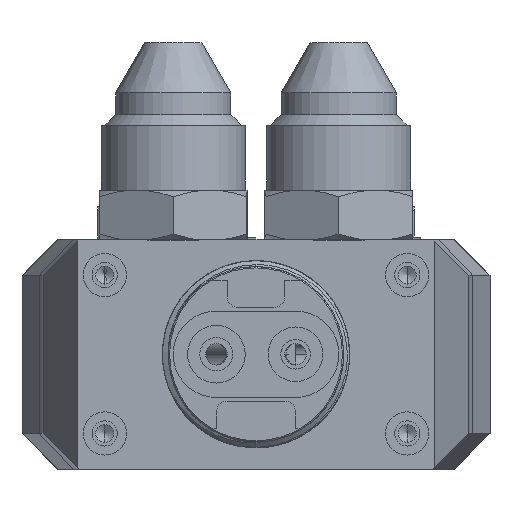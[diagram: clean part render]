
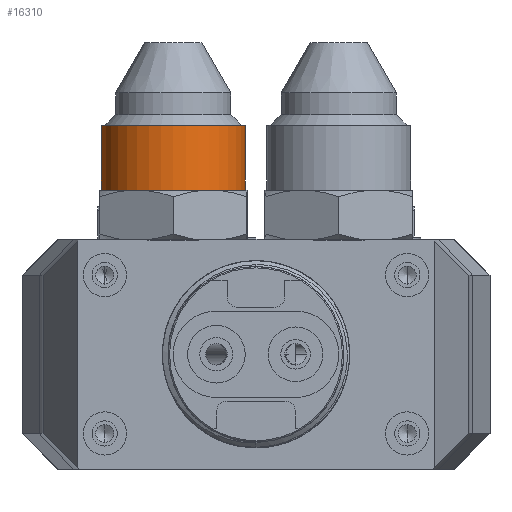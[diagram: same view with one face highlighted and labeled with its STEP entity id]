
A CAD part, front view. The second image highlights one B-rep face of the part: STEP entity #16310.
In plain terms, the highlighted cylindrical face has radius 10 mm (diameter 20 mm), a partial arc.
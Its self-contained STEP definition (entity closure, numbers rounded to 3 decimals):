
#1194 = CARTESIAN_POINT ( 'NONE',  ( -128.341, -150.379, 49.306 ) ) ;
#1388 = VERTEX_POINT ( 'NONE', #23137 ) ;
#1968 = VERTEX_POINT ( 'NONE', #52903 ) ;
#4090 = AXIS2_PLACEMENT_3D ( 'NONE', #40790, #52809, #11006 ) ;
#7094 = DIRECTION ( 'NONE',  ( 1., 0., 0. ) ) ;
#11006 = DIRECTION ( 'NONE',  ( 1., 0., 0. ) ) ;
#12811 = CARTESIAN_POINT ( 'NONE',  ( -148.341, -150.379, 71.578 ) ) ;
#13624 = AXIS2_PLACEMENT_3D ( 'NONE', #54918, #32314, #7094 ) ;
#13909 = CARTESIAN_POINT ( 'NONE',  ( -128.341, -150.379, 71.578 ) ) ;
#14523 = CARTESIAN_POINT ( 'NONE',  ( -138.341, -150.379, 40.306 ) ) ;
#16310 = ADVANCED_FACE ( 'NONE', ( #31349 ), #49968, .T. ) ;
#19428 = CIRCLE ( 'NONE', #13624, 10. ) ;
#22778 = ORIENTED_EDGE ( 'NONE', *, *, #36823, .T. ) ;
#23051 = LINE ( 'NONE', #13909, #56966 ) ;
#23137 = CARTESIAN_POINT ( 'NONE',  ( -128.341, -150.379, 40.306 ) ) ;
#23979 = DIRECTION ( 'NONE',  ( 1., 0., 0. ) ) ;
#27741 = LINE ( 'NONE', #12811, #32297 ) ;
#28389 = ORIENTED_EDGE ( 'NONE', *, *, #30499, .T. ) ;
#28686 = VERTEX_POINT ( 'NONE', #1194 ) ;
#30499 = EDGE_CURVE ( 'NONE', #1388, #28686, #23051, .T. ) ;
#31349 = FACE_OUTER_BOUND ( 'NONE', #36584, .T. ) ;
#32297 = VECTOR ( 'NONE', #46374, 1000. ) ;
#32314 = DIRECTION ( 'NONE',  ( 0., 0., -1. ) ) ;
#32887 = ORIENTED_EDGE ( 'NONE', *, *, #47478, .F. ) ;
#34292 = EDGE_CURVE ( 'NONE', #28686, #1968, #19428, .T. ) ;
#36584 = EDGE_LOOP ( 'NONE', ( #32887, #22778, #28389, #45857 ) ) ;
#36823 = EDGE_CURVE ( 'NONE', #40908, #1388, #43045, .T. ) ;
#37091 = DIRECTION ( 'NONE',  ( 0., 0., 1. ) ) ;
#40790 = CARTESIAN_POINT ( 'NONE',  ( -138.341, -150.379, 71.578 ) ) ;
#40908 = VERTEX_POINT ( 'NONE', #47750 ) ;
#41134 = AXIS2_PLACEMENT_3D ( 'NONE', #14523, #47788, #23979 ) ;
#43045 = CIRCLE ( 'NONE', #41134, 10. ) ;
#45857 = ORIENTED_EDGE ( 'NONE', *, *, #34292, .T. ) ;
#46374 = DIRECTION ( 'NONE',  ( 0., 0., 1. ) ) ;
#47478 = EDGE_CURVE ( 'NONE', #40908, #1968, #27741, .T. ) ;
#47750 = CARTESIAN_POINT ( 'NONE',  ( -148.341, -150.379, 40.306 ) ) ;
#47788 = DIRECTION ( 'NONE',  ( 0., 0., 1. ) ) ;
#49968 = CYLINDRICAL_SURFACE ( 'NONE', #4090, 10. ) ;
#52809 = DIRECTION ( 'NONE',  ( 0., 0., 1. ) ) ;
#52903 = CARTESIAN_POINT ( 'NONE',  ( -148.341, -150.379, 49.306 ) ) ;
#54918 = CARTESIAN_POINT ( 'NONE',  ( -138.341, -150.379, 49.306 ) ) ;
#56966 = VECTOR ( 'NONE', #37091, 1000. ) ;
